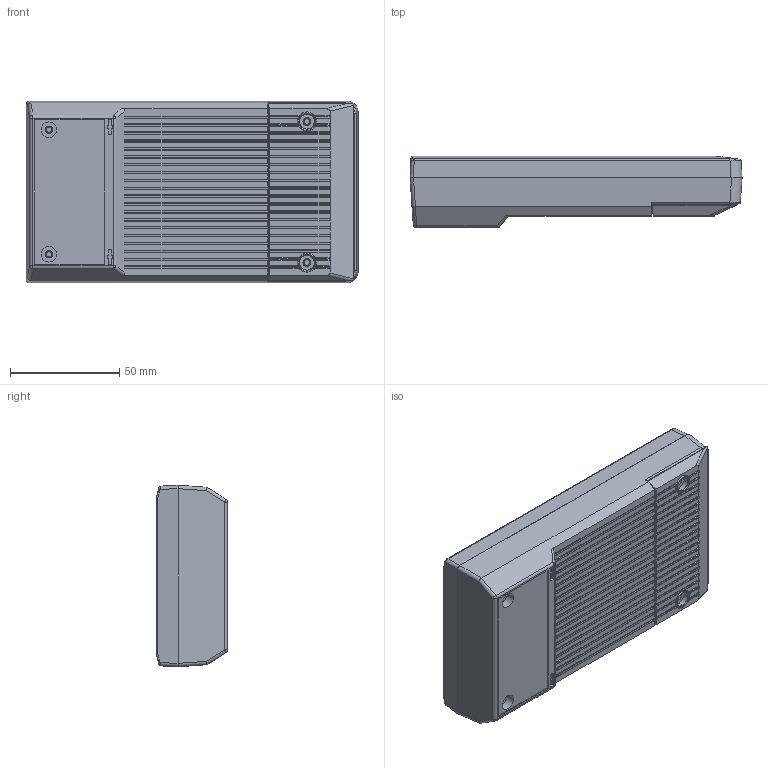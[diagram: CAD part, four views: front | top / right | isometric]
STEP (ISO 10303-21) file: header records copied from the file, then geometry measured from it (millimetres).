
FILE_DESCRIPTION (( 'STEP AP214' ), '1' );
FILE_NAME ('MBS-assem.STEP', '2025-01-18T19:30:01', ( '' ), ( '' ), 'SwSTEP 2.0', 'SolidWorks 2016', '' );
FILE_SCHEMA (( 'AUTOMOTIVE_DESIGN' ));
Length unit declared in the file: inch
Products named in the file (7): MBS-BOT; MBS-assem; MBS-door; MBS-TOP
Assembly tree (3 placements, depth 2):
  MBS-BOT
  MBS-assem
    MBS-BOT
    MBS-TOP
    MBS-door
  MBS-door
  MBS-TOP
Bounding box: 151.89 x 32.59 x 83.06 mm (x, y, z)
Volume: 113698.3 mm3; surface area: 107309.8 mm2
Topology: 3 solids, 3 shells, 2208 faces, 5855 edges, 3811 vertices
Faces by surface type: plane 1152, bspline 566, cylinder 390, torus 60, cone 36, sphere 4
Entity records: 96693 total; most frequent: CARTESIAN_POINT 41651, ORIENTED_EDGE 11694, DIRECTION 8719, EDGE_CURVE 5847, VERTEX_POINT 3811, VECTOR 3665, LINE 3665, AXIS2_PLACEMENT_3D 2527
